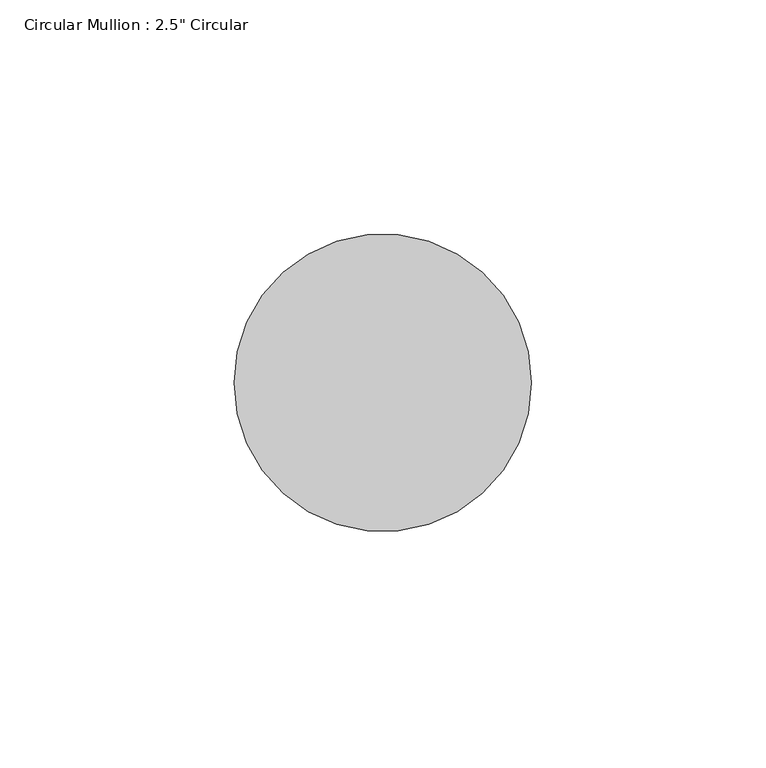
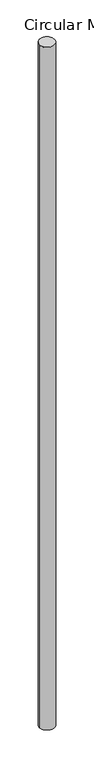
"""IFC4 building model written with IfcOpenShell, lengths in millimetres: member geometry."""

from ifc_helpers import new_model, si_unit, frame, origin, place, context, project, spatial, ellipse_curve, source, transform, mapped, element, save
from ifc_brep_helpers import plane_surface, cylinder_surface, advanced_brep


def member_5800cf57(model_context):
    return source(origin(), model_context, "Body", "AdvancedBrep", [
        advanced_brep(
        [(-63.5, 0.0, -1.464727), (0.0, 0.0, 0.0), (0.0, 0.0, -3025.6270618), (-63.5, 0.0, -3024.0128472)],
        [
            (0, 1, ellipse_curve(frame((-31.75, 0.0, -0.7323635), z_axis=(0.023040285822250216, 0.04179147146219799, -0.9988606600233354), x_axis=(0.48225289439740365, 0.874731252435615, 0.04772192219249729)), 31.7862153, 31.75)),
            (1, 2),
            (2, 3, ellipse_curve(frame((-31.75, 0.0, -3024.8199545), z_axis=(0.025385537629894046, 0.046045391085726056, 0.9986167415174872), x_axis=(-0.48213512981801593, -0.8745176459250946, 0.05257949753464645)), 31.7939793, 31.75)),
            (3, 0),
            (1, 0, ellipse_curve(frame((-31.75, 0.0, -0.7323635), z_axis=(0.023040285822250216, 0.04179147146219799, -0.9988606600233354), x_axis=(0.48225289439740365, 0.874731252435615, 0.04772192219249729)), 31.7862153, 31.75)),
            (3, 2, ellipse_curve(frame((-31.75, 0.0, -3024.8199545), z_axis=(0.025385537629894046, 0.046045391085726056, 0.9986167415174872), x_axis=(-0.48213512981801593, -0.8745176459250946, 0.05257949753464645)), 31.7939793, 31.75)),
        ],
        [
            cylinder_surface(frame((-31.75, 0.0, 0.0), z_axis=(0.0, 0.0, 1.0), x_axis=(1.0, 0.0, 0.0)), 31.75),
            plane_surface(frame((266.9222009, -147.1583456, 0.0), z_axis=(-0.02304028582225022, -0.041791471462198, 0.9988606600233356), x_axis=(-0.48225289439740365, -0.8747312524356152, -0.04772192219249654))),
            plane_surface(frame((266.9222009, -147.1583456, -3025.6270618), z_axis=(-0.025385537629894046, -0.046045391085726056, -0.9986167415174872), x_axis=(-0.48213512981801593, -0.8745176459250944, 0.05257949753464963))),
        ],
        [
            (0, [[1, 2, 3, 4]]),
            (0, [[5, -4, 6, -2]]),
            (1, [[-1, -5]]),
            (2, [[-6, -3]]),
        ],
    ),
    ])


if __name__ == "__main__":
    model = new_model("IFC4")
    model_context = context("Model", 3, world=origin())
    ifc_project = project(units=[si_unit("LENGTHUNIT", "METRE", prefix="MILLI")], contexts=[model_context])
    site = spatial("IfcSite", under=ifc_project)
    building = spatial("IfcBuilding", under=site)
    placement = place(None, origin())
    member_shape = member_5800cf57(model_context)
    element("IfcMember", 1, ObjectType="Circular Mullion : 2.5\" Circular", at=placement, inside=building, context=model_context, shape_type="MappedRepresentation", body=[
        mapped(member_shape, transform((0.0, 0.0, 0.0), x_axis=(1.0, 0.0, 0.0), y_axis=(0.0, 1.0, 0.0), z_axis=(0.0, 0.0, 1.0))),
    ])
    save(model, "model.ifc")
